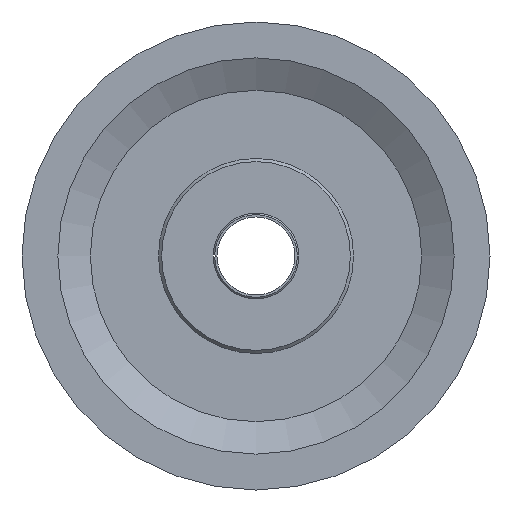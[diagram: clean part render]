
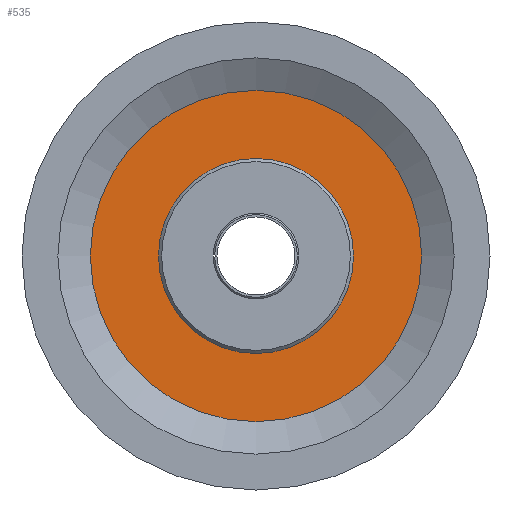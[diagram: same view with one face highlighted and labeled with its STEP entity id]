
A CAD part, left-side view. The second image highlights one B-rep face of the part: STEP entity #535.
In plain terms, the highlighted planar face has unit normal (-1, 0, 0).
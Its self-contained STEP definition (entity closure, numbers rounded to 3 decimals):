
#37=FACE_BOUND('',#152,.T.);
#43=PLANE('',#665);
#120=FACE_OUTER_BOUND('',#151,.T.);
#151=EDGE_LOOP('',(#441,#442));
#152=EDGE_LOOP('',(#443,#444));
#207=CIRCLE('',#662,62.5);
#208=CIRCLE('',#663,62.5);
#209=CIRCLE('',#666,106.215);
#210=CIRCLE('',#667,106.215);
#260=VERTEX_POINT('',#993);
#261=VERTEX_POINT('',#994);
#262=VERTEX_POINT('',#1001);
#263=VERTEX_POINT('',#1002);
#325=EDGE_CURVE('',#260,#261,#207,.T.);
#326=EDGE_CURVE('',#261,#260,#208,.T.);
#329=EDGE_CURVE('',#262,#263,#209,.T.);
#330=EDGE_CURVE('',#263,#262,#210,.T.);
#441=ORIENTED_EDGE('',*,*,#329,.F.);
#442=ORIENTED_EDGE('',*,*,#330,.F.);
#443=ORIENTED_EDGE('',*,*,#325,.T.);
#444=ORIENTED_EDGE('',*,*,#326,.T.);
#535=ADVANCED_FACE('',(#120,#37),#43,.T.);
#662=AXIS2_PLACEMENT_3D('',#995,#809,#810);
#663=AXIS2_PLACEMENT_3D('',#996,#811,#812);
#665=AXIS2_PLACEMENT_3D('',#1000,#817,#818);
#666=AXIS2_PLACEMENT_3D('',#1003,#819,#820);
#667=AXIS2_PLACEMENT_3D('',#1004,#821,#822);
#809=DIRECTION('center_axis',(1.,0.,0.));
#810=DIRECTION('ref_axis',(0.,0.,-1.));
#811=DIRECTION('center_axis',(1.,0.,0.));
#812=DIRECTION('ref_axis',(0.,0.,-1.));
#817=DIRECTION('center_axis',(-1.,0.,0.));
#818=DIRECTION('ref_axis',(0.,0.,1.));
#819=DIRECTION('center_axis',(1.,0.,0.));
#820=DIRECTION('ref_axis',(0.,0.,-1.));
#821=DIRECTION('center_axis',(1.,0.,0.));
#822=DIRECTION('ref_axis',(0.,0.,-1.));
#993=CARTESIAN_POINT('',(-8.,62.5,0.));
#994=CARTESIAN_POINT('',(-8.,-62.5,0.));
#995=CARTESIAN_POINT('Origin',(-8.,0.,0.));
#996=CARTESIAN_POINT('Origin',(-8.,0.,0.));
#1000=CARTESIAN_POINT('Origin',(-8.,106.215,0.));
#1001=CARTESIAN_POINT('',(-8.,106.215,0.));
#1002=CARTESIAN_POINT('',(-8.,-106.215,0.));
#1003=CARTESIAN_POINT('Origin',(-8.,0.,0.));
#1004=CARTESIAN_POINT('Origin',(-8.,0.,0.));
